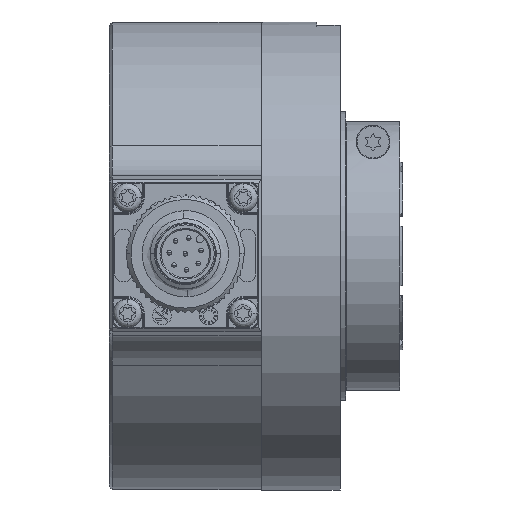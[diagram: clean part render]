
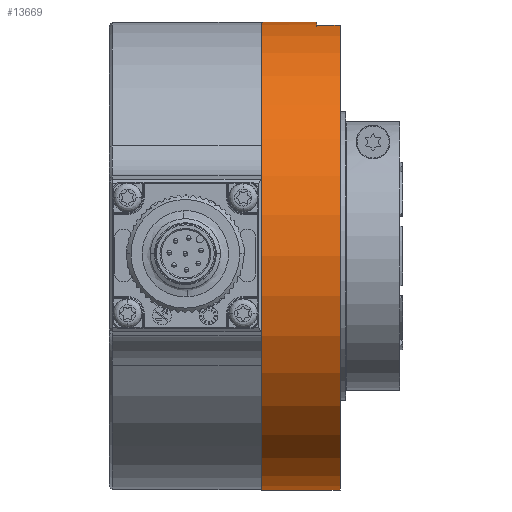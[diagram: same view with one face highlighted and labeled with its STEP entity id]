
A CAD part, top view. The second image highlights one B-rep face of the part: STEP entity #13669.
In plain terms, the highlighted cylindrical face has radius 40.075 mm (diameter 80.15 mm), a partial arc.
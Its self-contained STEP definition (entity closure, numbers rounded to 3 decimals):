
#3203 = EDGE_CURVE ( 'NONE', #7244, #20002, #14279, .T. ) ;
#3744 = DIRECTION ( 'NONE',  ( -1., 0., 0. ) ) ;
#3811 = CIRCLE ( 'NONE', #11612, 40.075 ) ;
#4306 = EDGE_CURVE ( 'NONE', #22339, #27983, #4857, .T. ) ;
#4857 = CIRCLE ( 'NONE', #18084, 40.075 ) ;
#4866 = DIRECTION ( 'NONE',  ( 0., 1., 0. ) ) ;
#6161 = DIRECTION ( 'NONE',  ( 0., 1., 0. ) ) ;
#7244 = VERTEX_POINT ( 'NONE', #43448 ) ;
#7784 = FACE_OUTER_BOUND ( 'NONE', #32324, .T. ) ;
#8176 = VERTEX_POINT ( 'NONE', #10910 ) ;
#8765 = DIRECTION ( 'NONE',  ( -1., 0., 0. ) ) ;
#10910 = CARTESIAN_POINT ( 'NONE',  ( 0., 40.075, 0. ) ) ;
#11612 = AXIS2_PLACEMENT_3D ( 'NONE', #28130, #13974, #6161 ) ;
#11741 = CARTESIAN_POINT ( 'NONE',  ( 13.5, 39.468, 6.95 ) ) ;
#12294 = VECTOR ( 'NONE', #3744, 1000. ) ;
#13140 = EDGE_CURVE ( 'NONE', #7244, #48103, #16974, .T. ) ;
#13639 = CARTESIAN_POINT ( 'NONE',  ( 9.5, 40.075, 0. ) ) ;
#13669 = ADVANCED_FACE ( 'NONE', ( #7784 ), #32689, .T. ) ;
#13727 = ORIENTED_EDGE ( 'NONE', *, *, #13140, .T. ) ;
#13974 = DIRECTION ( 'NONE',  ( -1., 0., 0. ) ) ;
#14091 = EDGE_CURVE ( 'NONE', #20002, #8176, #3811, .T. ) ;
#14279 = LINE ( 'NONE', #28919, #42178 ) ;
#15438 = AXIS2_PLACEMENT_3D ( 'NONE', #22671, #47553, #44386 ) ;
#16158 = ORIENTED_EDGE ( 'NONE', *, *, #4306, .T. ) ;
#16210 = AXIS2_PLACEMENT_3D ( 'NONE', #20587, #39103, #17388 ) ;
#16974 = CIRCLE ( 'NONE', #16210, 40.075 ) ;
#17388 = DIRECTION ( 'NONE',  ( 0., 1., 0. ) ) ;
#17481 = CARTESIAN_POINT ( 'NONE',  ( 9.5, 39.468, 6.95 ) ) ;
#18084 = AXIS2_PLACEMENT_3D ( 'NONE', #30726, #8765, #4866 ) ;
#20002 = VERTEX_POINT ( 'NONE', #30779 ) ;
#20587 = CARTESIAN_POINT ( 'NONE',  ( 13.5, 0., 0. ) ) ;
#20920 = LINE ( 'NONE', #46997, #12294 ) ;
#21395 = EDGE_CURVE ( 'NONE', #48103, #22339, #21740, .T. ) ;
#21601 = DIRECTION ( 'NONE',  ( -1., 0., 0. ) ) ;
#21740 = LINE ( 'NONE', #43916, #32878 ) ;
#22339 = VERTEX_POINT ( 'NONE', #17481 ) ;
#22671 = CARTESIAN_POINT ( 'NONE',  ( -12.775, 0., 0. ) ) ;
#27983 = VERTEX_POINT ( 'NONE', #13639 ) ;
#28130 = CARTESIAN_POINT ( 'NONE',  ( 0., 0., 0. ) ) ;
#28436 = ORIENTED_EDGE ( 'NONE', *, *, #40123, .T. ) ;
#28919 = CARTESIAN_POINT ( 'NONE',  ( -12.775, -40.075, 0. ) ) ;
#30726 = CARTESIAN_POINT ( 'NONE',  ( 9.5, 0., 0. ) ) ;
#30779 = CARTESIAN_POINT ( 'NONE',  ( 0., -40.075, 0. ) ) ;
#32324 = EDGE_LOOP ( 'NONE', ( #39919, #13727, #46872, #16158, #28436, #44039 ) ) ;
#32689 = CYLINDRICAL_SURFACE ( 'NONE', #15438, 40.075 ) ;
#32878 = VECTOR ( 'NONE', #36610, 1000. ) ;
#36610 = DIRECTION ( 'NONE',  ( -1., 0., 0. ) ) ;
#39103 = DIRECTION ( 'NONE',  ( -1., 0., 0. ) ) ;
#39919 = ORIENTED_EDGE ( 'NONE', *, *, #3203, .F. ) ;
#40123 = EDGE_CURVE ( 'NONE', #27983, #8176, #20920, .T. ) ;
#42178 = VECTOR ( 'NONE', #21601, 1000. ) ;
#43448 = CARTESIAN_POINT ( 'NONE',  ( 13.5, -40.075, 0. ) ) ;
#43916 = CARTESIAN_POINT ( 'NONE',  ( -12.775, 39.468, 6.95 ) ) ;
#44039 = ORIENTED_EDGE ( 'NONE', *, *, #14091, .F. ) ;
#44386 = DIRECTION ( 'NONE',  ( 0., 1., 0. ) ) ;
#46872 = ORIENTED_EDGE ( 'NONE', *, *, #21395, .T. ) ;
#46997 = CARTESIAN_POINT ( 'NONE',  ( -12.775, 40.075, 0. ) ) ;
#47553 = DIRECTION ( 'NONE',  ( -1., 0., 0. ) ) ;
#48103 = VERTEX_POINT ( 'NONE', #11741 ) ;
